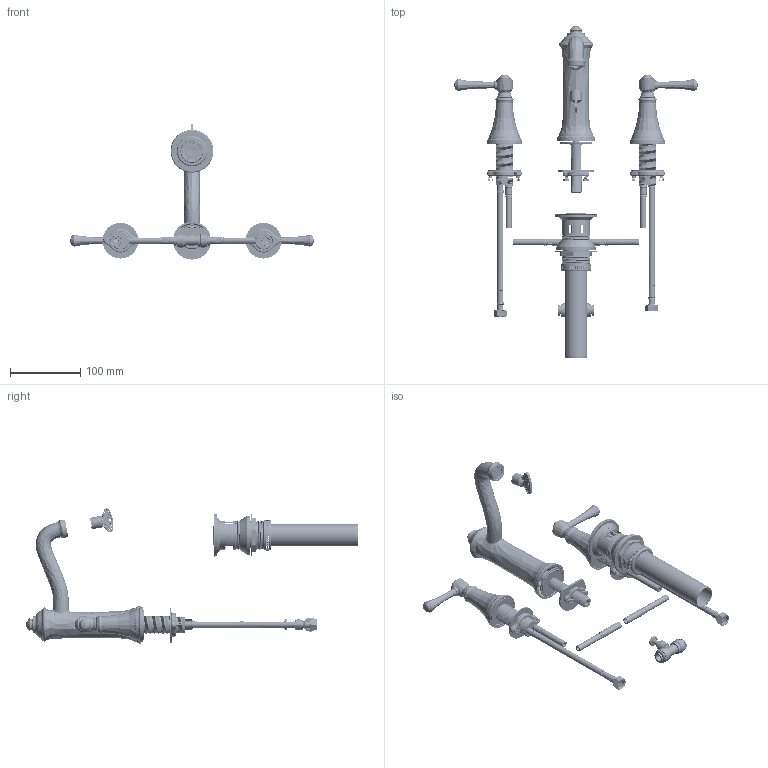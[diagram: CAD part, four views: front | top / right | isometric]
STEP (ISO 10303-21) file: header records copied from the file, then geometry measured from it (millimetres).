
FILE_DESCRIPTION (( 'STEP AP214' ), '1' );
FILE_NAME ('SLW5812PP.STEP', '2025-11-20T11:35:12', ( '' ), ( '' ), 'SwSTEP 2.0', 'SolidWorks 2023', '' );
FILE_SCHEMA (( 'AUTOMOTIVE_DESIGN' ));
Length unit declared in the file: inch
Products named in the file (1): SLW5812PP
Bounding box: 345.95 x 471.65 x 192.15 mm (x, y, z)
Surface area: 219885.1 mm2 (no closed solid volume)
Topology: 0 solids, 188 shells, 2060 faces, 7913 edges, 5923 vertices
Faces by surface type: cylinder 848, plane 509, bspline 413, torus 149, cone 141
Entity records: 137243 total; most frequent: CARTESIAN_POINT 78329, ORIENTED_EDGE 12121, DIRECTION 10729, EDGE_CURVE 7899, VERTEX_POINT 5921, AXIS2_PLACEMENT_3D 3931, LINE 2867, VECTOR 2867
